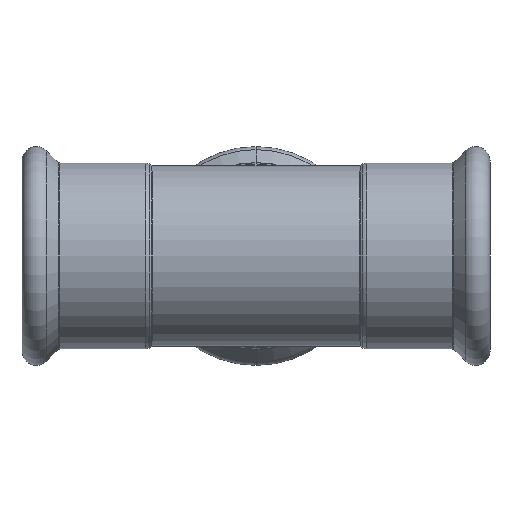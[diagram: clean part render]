
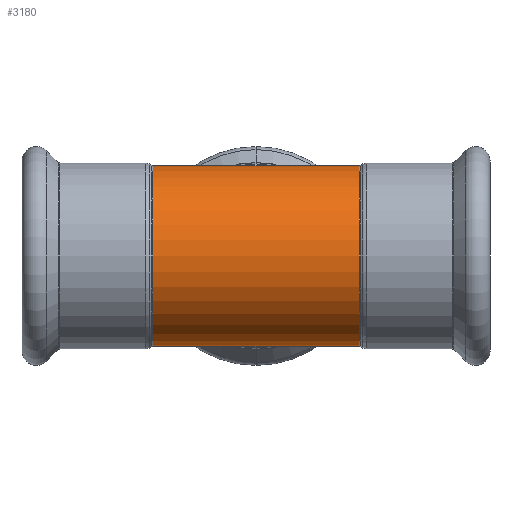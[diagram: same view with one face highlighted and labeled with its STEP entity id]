
A CAD part, front view. The second image highlights one B-rep face of the part: STEP entity #3180.
In plain terms, the highlighted cylindrical face has radius 22 mm (diameter 44 mm), a partial arc.
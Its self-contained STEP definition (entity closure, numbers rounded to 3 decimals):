
#47 = CARTESIAN_POINT ( 'NONE',  ( 27.146, 0., 0. ) ) ;
#163 = CARTESIAN_POINT ( 'NONE',  ( 25.154, 0., 0. ) ) ;
#181 = ORIENTED_EDGE ( 'NONE', *, *, #225, .T. ) ;
#225 = EDGE_CURVE ( 'NONE', #3002, #1904, #2181, .T. ) ;
#304 = CIRCLE ( 'NONE', #2586, 22. ) ;
#308 = DIRECTION ( 'NONE',  ( 0., 0., 1. ) ) ;
#370 = VERTEX_POINT ( 'NONE', #783 ) ;
#424 = VECTOR ( 'NONE', #1419, 1000. ) ;
#530 = VERTEX_POINT ( 'NONE', #3571 ) ;
#563 = CARTESIAN_POINT ( 'NONE',  ( 27.146, 0., 22. ) ) ;
#635 = CARTESIAN_POINT ( 'NONE',  ( 27.146, 0., -22. ) ) ;
#718 = LINE ( 'NONE', #2942, #1290 ) ;
#740 = VERTEX_POINT ( 'NONE', #1453 ) ;
#746 = DIRECTION ( 'NONE',  ( -1., 0., 0. ) ) ;
#777 = EDGE_LOOP ( 'NONE', ( #3435, #181, #2798, #3133, #3163, #3153 ) ) ;
#783 = CARTESIAN_POINT ( 'NONE',  ( 0., 0., 22. ) ) ;
#816 = EDGE_CURVE ( 'NONE', #740, #530, #304, .T. ) ;
#997 = DIRECTION ( 'NONE',  ( -1., 0., 0. ) ) ;
#1004 = EDGE_CURVE ( 'NONE', #370, #530, #3468, .T. ) ;
#1214 = DIRECTION ( 'NONE',  ( -1., 0., 0. ) ) ;
#1290 = VECTOR ( 'NONE', #746, 1000. ) ;
#1334 = CYLINDRICAL_SURFACE ( 'NONE', #1555, 22. ) ;
#1347 = CARTESIAN_POINT ( 'NONE',  ( 25.154, 0., 22. ) ) ;
#1398 = VECTOR ( 'NONE', #3233, 1000. ) ;
#1419 = DIRECTION ( 'NONE',  ( -1., 0., 0. ) ) ;
#1453 = CARTESIAN_POINT ( 'NONE',  ( -25.154, 0., -22. ) ) ;
#1463 = EDGE_CURVE ( 'NONE', #3054, #740, #2053, .T. ) ;
#1540 = CARTESIAN_POINT ( 'NONE',  ( 27.146, 0., -22. ) ) ;
#1555 = AXIS2_PLACEMENT_3D ( 'NONE', #47, #1974, #308 ) ;
#1687 = FACE_OUTER_BOUND ( 'NONE', #777, .T. ) ;
#1810 = EDGE_CURVE ( 'NONE', #3002, #3054, #2412, .T. ) ;
#1901 = CARTESIAN_POINT ( 'NONE',  ( 25.154, 0., -22. ) ) ;
#1904 = VERTEX_POINT ( 'NONE', #1347 ) ;
#1960 = VECTOR ( 'NONE', #1214, 1000. ) ;
#1974 = DIRECTION ( 'NONE',  ( -1., 0., 0. ) ) ;
#2053 = LINE ( 'NONE', #635, #1960 ) ;
#2162 = DIRECTION ( 'NONE',  ( -1., 0., 0. ) ) ;
#2181 = CIRCLE ( 'NONE', #3176, 22. ) ;
#2412 = LINE ( 'NONE', #1540, #1398 ) ;
#2444 = DIRECTION ( 'NONE',  ( 0., 0., 1. ) ) ;
#2502 = EDGE_CURVE ( 'NONE', #1904, #370, #718, .T. ) ;
#2586 = AXIS2_PLACEMENT_3D ( 'NONE', #3542, #2162, #2444 ) ;
#2798 = ORIENTED_EDGE ( 'NONE', *, *, #2502, .T. ) ;
#2942 = CARTESIAN_POINT ( 'NONE',  ( 27.146, 0., 22. ) ) ;
#3002 = VERTEX_POINT ( 'NONE', #1901 ) ;
#3028 = CARTESIAN_POINT ( 'NONE',  ( 0., 0., -22. ) ) ;
#3054 = VERTEX_POINT ( 'NONE', #3028 ) ;
#3133 = ORIENTED_EDGE ( 'NONE', *, *, #1004, .T. ) ;
#3153 = ORIENTED_EDGE ( 'NONE', *, *, #1463, .F. ) ;
#3163 = ORIENTED_EDGE ( 'NONE', *, *, #816, .F. ) ;
#3176 = AXIS2_PLACEMENT_3D ( 'NONE', #163, #997, #3223 ) ;
#3180 = ADVANCED_FACE ( 'NONE', ( #1687 ), #1334, .T. ) ;
#3223 = DIRECTION ( 'NONE',  ( 0., 0., 1. ) ) ;
#3233 = DIRECTION ( 'NONE',  ( -1., 0., 0. ) ) ;
#3435 = ORIENTED_EDGE ( 'NONE', *, *, #1810, .F. ) ;
#3468 = LINE ( 'NONE', #563, #424 ) ;
#3542 = CARTESIAN_POINT ( 'NONE',  ( -25.154, 0., 0. ) ) ;
#3571 = CARTESIAN_POINT ( 'NONE',  ( -25.154, 0., 22. ) ) ;
